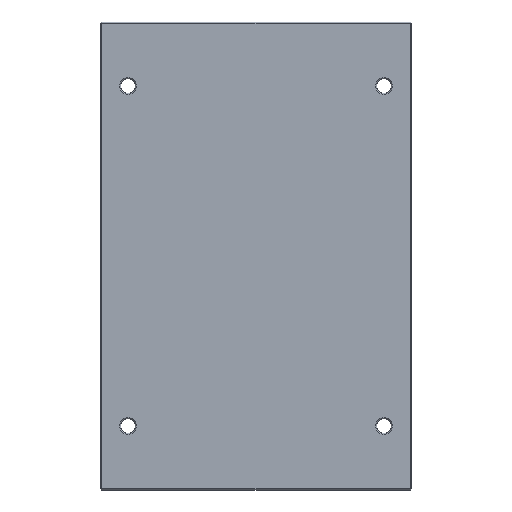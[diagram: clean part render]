
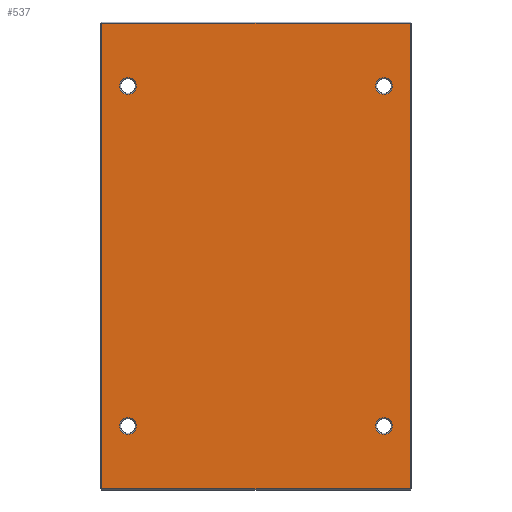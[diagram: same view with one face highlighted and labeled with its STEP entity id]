
A CAD part, front view. The second image highlights one B-rep face of the part: STEP entity #537.
In plain terms, the highlighted planar face has unit normal (0, -1, 0).
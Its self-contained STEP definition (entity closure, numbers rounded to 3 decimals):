
#7 = LINE ( 'NONE', #1630, #1021 ) ;
#20 = ORIENTED_EDGE ( 'NONE', *, *, #36, .T. ) ;
#33 = CARTESIAN_POINT ( 'NONE',  ( 122., 0., -162. ) ) ;
#36 = EDGE_CURVE ( 'NONE', #1238, #282, #295, .T. ) ;
#59 = DIRECTION ( 'NONE',  ( 0., 1., 0. ) ) ;
#65 = CIRCLE ( 'NONE', #784, 8. ) ;
#73 = DIRECTION ( 'NONE',  ( 0., 0., 1. ) ) ;
#96 = AXIS2_PLACEMENT_3D ( 'NONE', #1019, #1031, #1037 ) ;
#104 = CIRCLE ( 'NONE', #1098, 8. ) ;
#116 = ORIENTED_EDGE ( 'NONE', *, *, #1301, .T. ) ;
#138 = CARTESIAN_POINT ( 'NONE',  ( 147., 0., 0. ) ) ;
#141 = PLANE ( 'NONE',  #465 ) ;
#196 = DIRECTION ( 'NONE',  ( 0., 0., 1. ) ) ;
#199 = AXIS2_PLACEMENT_3D ( 'NONE', #378, #384, #402 ) ;
#204 = DIRECTION ( 'NONE',  ( 0., 0., 1. ) ) ;
#211 = EDGE_CURVE ( 'NONE', #677, #780, #1086, .T. ) ;
#241 = CIRCLE ( 'NONE', #96, 8. ) ;
#249 = CARTESIAN_POINT ( 'NONE',  ( -122., 0., -170. ) ) ;
#259 = VERTEX_POINT ( 'NONE', #1503 ) ;
#261 = CIRCLE ( 'NONE', #835, 8. ) ;
#266 = EDGE_CURVE ( 'NONE', #282, #438, #7, .T. ) ;
#271 = AXIS2_PLACEMENT_3D ( 'NONE', #717, #349, #196 ) ;
#279 = CARTESIAN_POINT ( 'NONE',  ( 0., 0., 0. ) ) ;
#281 = VERTEX_POINT ( 'NONE', #906 ) ;
#282 = VERTEX_POINT ( 'NONE', #1521 ) ;
#295 = LINE ( 'NONE', #1637, #1287 ) ;
#317 = AXIS2_PLACEMENT_3D ( 'NONE', #986, #993, #1054 ) ;
#330 = CARTESIAN_POINT ( 'NONE',  ( 122., 0., 170. ) ) ;
#349 = DIRECTION ( 'NONE',  ( 0., 1., 0. ) ) ;
#378 = CARTESIAN_POINT ( 'NONE',  ( -122., 0., 162. ) ) ;
#384 = DIRECTION ( 'NONE',  ( 0., 1., 0. ) ) ;
#397 = ORIENTED_EDGE ( 'NONE', *, *, #536, .T. ) ;
#402 = DIRECTION ( 'NONE',  ( 0., 0., 1. ) ) ;
#415 = DIRECTION ( 'NONE',  ( 0., 1., 0. ) ) ;
#420 = VECTOR ( 'NONE', #1515, 1000. ) ;
#421 = DIRECTION ( 'NONE',  ( 0., 0., 1. ) ) ;
#438 = VERTEX_POINT ( 'NONE', #1524 ) ;
#442 = DIRECTION ( 'NONE',  ( 0., 0., 1. ) ) ;
#443 = EDGE_CURVE ( 'NONE', #438, #578, #1471, .T. ) ;
#464 = CARTESIAN_POINT ( 'NONE',  ( -122., 0., 170. ) ) ;
#465 = AXIS2_PLACEMENT_3D ( 'NONE', #279, #415, #421 ) ;
#519 = EDGE_LOOP ( 'NONE', ( #116, #1076 ) ) ;
#536 = EDGE_CURVE ( 'NONE', #259, #1143, #1030, .T. ) ;
#537 = ADVANCED_FACE ( 'NONE', ( #681, #1352, #1644, #991, #643 ), #141, .F. ) ;
#541 = ORIENTED_EDGE ( 'NONE', *, *, #211, .T. ) ;
#564 = ORIENTED_EDGE ( 'NONE', *, *, #944, .T. ) ;
#569 = DIRECTION ( 'NONE',  ( 0., 1., 0. ) ) ;
#578 = VERTEX_POINT ( 'NONE', #665 ) ;
#589 = AXIS2_PLACEMENT_3D ( 'NONE', #859, #59, #73 ) ;
#608 = DIRECTION ( 'NONE',  ( 0., 0., 1. ) ) ;
#627 = VERTEX_POINT ( 'NONE', #249 ) ;
#643 = FACE_OUTER_BOUND ( 'NONE', #1137, .T. ) ;
#654 = ORIENTED_EDGE ( 'NONE', *, *, #1252, .T. ) ;
#665 = CARTESIAN_POINT ( 'NONE',  ( 147., 0., -222. ) ) ;
#666 = CARTESIAN_POINT ( 'NONE',  ( 122., 0., 162. ) ) ;
#677 = VERTEX_POINT ( 'NONE', #1128 ) ;
#681 = FACE_BOUND ( 'NONE', #888, .T. ) ;
#687 = ORIENTED_EDGE ( 'NONE', *, *, #1609, .T. ) ;
#717 = CARTESIAN_POINT ( 'NONE',  ( -122., 0., -162. ) ) ;
#780 = VERTEX_POINT ( 'NONE', #1309 ) ;
#784 = AXIS2_PLACEMENT_3D ( 'NONE', #666, #1337, #608 ) ;
#787 = ORIENTED_EDGE ( 'NONE', *, *, #1003, .T. ) ;
#835 = AXIS2_PLACEMENT_3D ( 'NONE', #33, #569, #442 ) ;
#841 = EDGE_CURVE ( 'NONE', #1528, #1542, #65, .T. ) ;
#859 = CARTESIAN_POINT ( 'NONE',  ( 122., 0., -162. ) ) ;
#875 = LINE ( 'NONE', #138, #1491 ) ;
#888 = EDGE_LOOP ( 'NONE', ( #687, #541 ) ) ;
#899 = DIRECTION ( 'NONE',  ( -1., 0., 0. ) ) ;
#906 = CARTESIAN_POINT ( 'NONE',  ( -122., 0., -154. ) ) ;
#909 = CIRCLE ( 'NONE', #271, 8. ) ;
#930 = ORIENTED_EDGE ( 'NONE', *, *, #443, .T. ) ;
#943 = CARTESIAN_POINT ( 'NONE',  ( 147., 0., 222. ) ) ;
#944 = EDGE_CURVE ( 'NONE', #578, #1238, #875, .T. ) ;
#986 = CARTESIAN_POINT ( 'NONE',  ( 122., 0., 162. ) ) ;
#991 = FACE_BOUND ( 'NONE', #519, .T. ) ;
#993 = DIRECTION ( 'NONE',  ( 0., 1., 0. ) ) ;
#1003 = EDGE_CURVE ( 'NONE', #1143, #259, #241, .T. ) ;
#1016 = DIRECTION ( 'NONE',  ( 0., 0., -1. ) ) ;
#1019 = CARTESIAN_POINT ( 'NONE',  ( -122., 0., 162. ) ) ;
#1021 = VECTOR ( 'NONE', #1016, 1000. ) ;
#1030 = CIRCLE ( 'NONE', #199, 8. ) ;
#1031 = DIRECTION ( 'NONE',  ( 0., 1., 0. ) ) ;
#1037 = DIRECTION ( 'NONE',  ( 0., 0., 1. ) ) ;
#1054 = DIRECTION ( 'NONE',  ( 0., 0., 1. ) ) ;
#1063 = EDGE_CURVE ( 'NONE', #281, #627, #909, .T. ) ;
#1076 = ORIENTED_EDGE ( 'NONE', *, *, #1063, .T. ) ;
#1086 = CIRCLE ( 'NONE', #589, 8. ) ;
#1098 = AXIS2_PLACEMENT_3D ( 'NONE', #1104, #1114, #1192 ) ;
#1104 = CARTESIAN_POINT ( 'NONE',  ( -122., 0., -162. ) ) ;
#1114 = DIRECTION ( 'NONE',  ( 0., 1., 0. ) ) ;
#1122 = CARTESIAN_POINT ( 'NONE',  ( 122., 0., 154. ) ) ;
#1128 = CARTESIAN_POINT ( 'NONE',  ( 122., 0., -154. ) ) ;
#1134 = ORIENTED_EDGE ( 'NONE', *, *, #841, .T. ) ;
#1137 = EDGE_LOOP ( 'NONE', ( #564, #20, #1279, #930 ) ) ;
#1143 = VERTEX_POINT ( 'NONE', #464 ) ;
#1183 = EDGE_LOOP ( 'NONE', ( #397, #787 ) ) ;
#1192 = DIRECTION ( 'NONE',  ( 0., 0., 1. ) ) ;
#1238 = VERTEX_POINT ( 'NONE', #943 ) ;
#1252 = EDGE_CURVE ( 'NONE', #1542, #1528, #1364, .T. ) ;
#1279 = ORIENTED_EDGE ( 'NONE', *, *, #266, .T. ) ;
#1287 = VECTOR ( 'NONE', #899, 1000. ) ;
#1301 = EDGE_CURVE ( 'NONE', #627, #281, #104, .T. ) ;
#1309 = CARTESIAN_POINT ( 'NONE',  ( 122., 0., -170. ) ) ;
#1337 = DIRECTION ( 'NONE',  ( 0., 1., 0. ) ) ;
#1352 = FACE_BOUND ( 'NONE', #1369, .T. ) ;
#1364 = CIRCLE ( 'NONE', #317, 8. ) ;
#1369 = EDGE_LOOP ( 'NONE', ( #654, #1134 ) ) ;
#1471 = LINE ( 'NONE', #1529, #420 ) ;
#1491 = VECTOR ( 'NONE', #204, 1000. ) ;
#1503 = CARTESIAN_POINT ( 'NONE',  ( -122., 0., 154. ) ) ;
#1515 = DIRECTION ( 'NONE',  ( 1., 0., 0. ) ) ;
#1521 = CARTESIAN_POINT ( 'NONE',  ( -147., 0., 222. ) ) ;
#1524 = CARTESIAN_POINT ( 'NONE',  ( -147., 0., -222. ) ) ;
#1528 = VERTEX_POINT ( 'NONE', #330 ) ;
#1529 = CARTESIAN_POINT ( 'NONE',  ( 0., 0., -222. ) ) ;
#1542 = VERTEX_POINT ( 'NONE', #1122 ) ;
#1609 = EDGE_CURVE ( 'NONE', #780, #677, #261, .T. ) ;
#1630 = CARTESIAN_POINT ( 'NONE',  ( -147., 0., 0. ) ) ;
#1637 = CARTESIAN_POINT ( 'NONE',  ( 0., 0., 222. ) ) ;
#1644 = FACE_BOUND ( 'NONE', #1183, .T. ) ;
